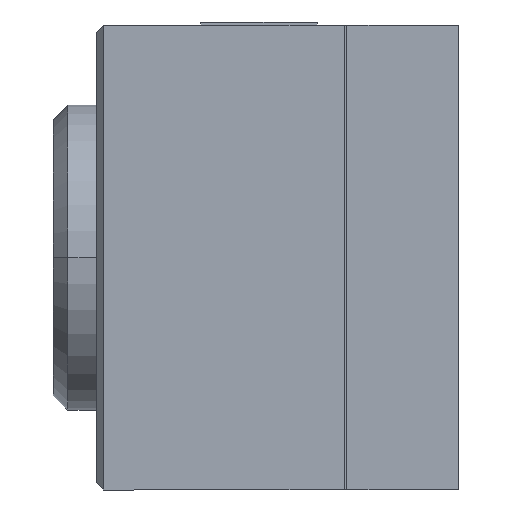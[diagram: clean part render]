
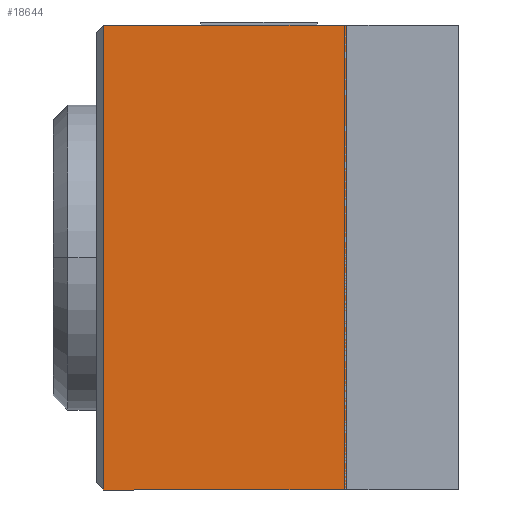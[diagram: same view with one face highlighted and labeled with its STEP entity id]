
A CAD part, left-side view. The second image highlights one B-rep face of the part: STEP entity #18644.
In plain terms, the highlighted planar face has unit normal (-1, 0, 0).
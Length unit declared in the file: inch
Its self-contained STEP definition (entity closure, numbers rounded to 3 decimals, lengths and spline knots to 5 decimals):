
#253 = VECTOR ( 'NONE', #26549, 39.37008 ) ;
#885 = AXIS2_PLACEMENT_3D ( 'NONE', #3837, #18744, #6017 ) ;
#2223 = CARTESIAN_POINT ( 'NONE',  ( -2., 3.0565, -2. ) ) ;
#3318 = VECTOR ( 'NONE', #14993, 39.37008 ) ;
#3837 = CARTESIAN_POINT ( 'NONE',  ( -2., 3.4885, -2. ) ) ;
#4491 = LINE ( 'NONE', #9122, #25757 ) ;
#5186 = VERTEX_POINT ( 'NONE', #23102 ) ;
#5923 = PLANE ( 'NONE',  #885 ) ;
#6017 = DIRECTION ( 'NONE',  ( 0., 0., -1. ) ) ;
#7011 = EDGE_CURVE ( 'NONE', #25533, #16487, #22124, .T. ) ;
#8448 = LINE ( 'NONE', #2223, #19749 ) ;
#8998 = ORIENTED_EDGE ( 'NONE', *, *, #15031, .T. ) ;
#9028 = LINE ( 'NONE', #23428, #3318 ) ;
#9122 = CARTESIAN_POINT ( 'NONE',  ( -2., 0.9685, -2. ) ) ;
#11750 = CARTESIAN_POINT ( 'NONE',  ( -2., 3.0565, 2. ) ) ;
#13106 = CARTESIAN_POINT ( 'NONE',  ( -2., 0.9685, 2. ) ) ;
#14993 = DIRECTION ( 'NONE',  ( 0., -1., 0. ) ) ;
#15031 = EDGE_CURVE ( 'NONE', #26994, #5186, #8448, .T. ) ;
#16105 = ORIENTED_EDGE ( 'NONE', *, *, #16448, .F. ) ;
#16448 = EDGE_CURVE ( 'NONE', #26994, #25533, #9028, .T. ) ;
#16487 = VERTEX_POINT ( 'NONE', #25980 ) ;
#17118 = DIRECTION ( 'NONE',  ( 0., 0., -1. ) ) ;
#17488 = ORIENTED_EDGE ( 'NONE', *, *, #7011, .F. ) ;
#18644 = ADVANCED_FACE ( 'NONE', ( #20289 ), #5923, .F. ) ;
#18744 = DIRECTION ( 'NONE',  ( 1., 0., 0. ) ) ;
#19749 = VECTOR ( 'NONE', #17118, 39.37008 ) ;
#20289 = FACE_OUTER_BOUND ( 'NONE', #24465, .T. ) ;
#22124 = LINE ( 'NONE', #26572, #253 ) ;
#22146 = EDGE_CURVE ( 'NONE', #16487, #5186, #4491, .T. ) ;
#22823 = ORIENTED_EDGE ( 'NONE', *, *, #22146, .F. ) ;
#23102 = CARTESIAN_POINT ( 'NONE',  ( -2., 3.0565, -2. ) ) ;
#23428 = CARTESIAN_POINT ( 'NONE',  ( -2., 3.4885, 2. ) ) ;
#24465 = EDGE_LOOP ( 'NONE', ( #16105, #8998, #22823, #17488 ) ) ;
#25533 = VERTEX_POINT ( 'NONE', #13106 ) ;
#25757 = VECTOR ( 'NONE', #26050, 39.37008 ) ;
#25980 = CARTESIAN_POINT ( 'NONE',  ( -2., 0.9685, -2. ) ) ;
#26050 = DIRECTION ( 'NONE',  ( 0., 1., 0. ) ) ;
#26549 = DIRECTION ( 'NONE',  ( 0., 0., -1. ) ) ;
#26572 = CARTESIAN_POINT ( 'NONE',  ( -2., 0.9685, 2. ) ) ;
#26994 = VERTEX_POINT ( 'NONE', #11750 ) ;
